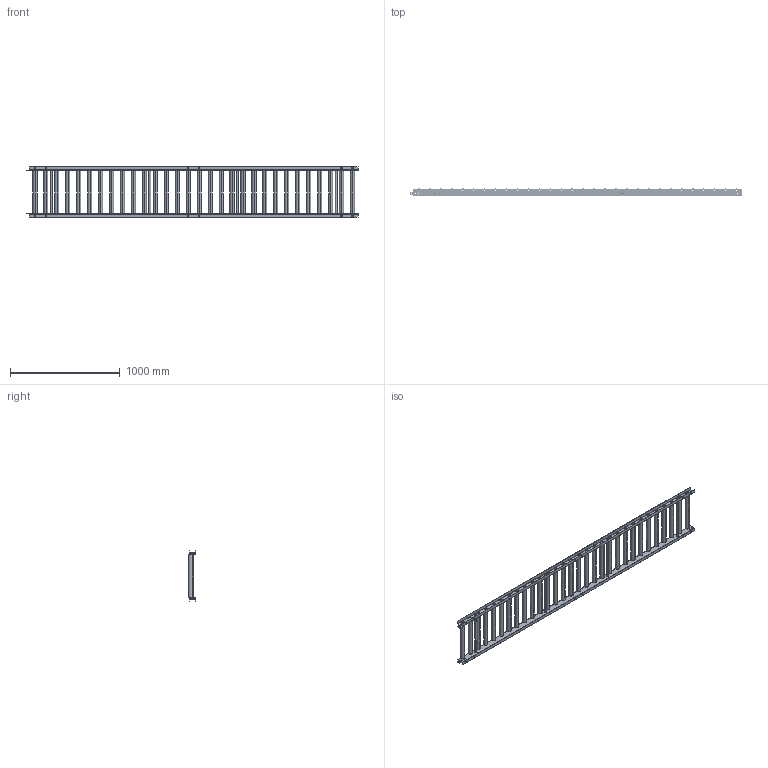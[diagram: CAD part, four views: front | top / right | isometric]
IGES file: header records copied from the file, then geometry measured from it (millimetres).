
Start section: SolidWorks IGES file using analytic representation for surfaces
Global section: file name: C:\Users\0656\Desktop\変換ツール\iges変換\S-3823NB.igs; native system: SolidWorks 2023; preprocessor: SolidWorks 2023; author: 0656; date: 240226.152939; units: millimetre
Bounding box: 3031.5 x 66.05 x 460 mm (x, y, z)
Surface area: 4348113.1 mm2 (no closed solid volume)
Topology: 0 solids, 0 shells, 1730 faces, 28416 edges, 28416 vertices
Faces by surface type: bspline 1072, revolution 658
